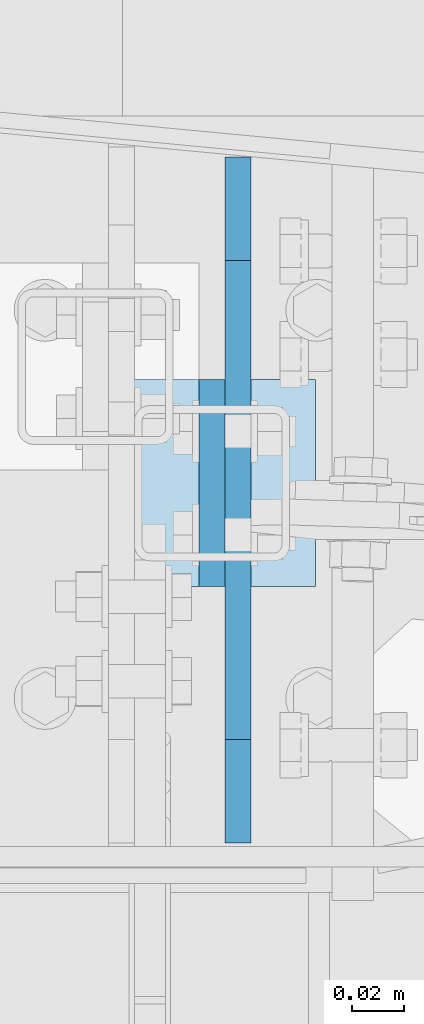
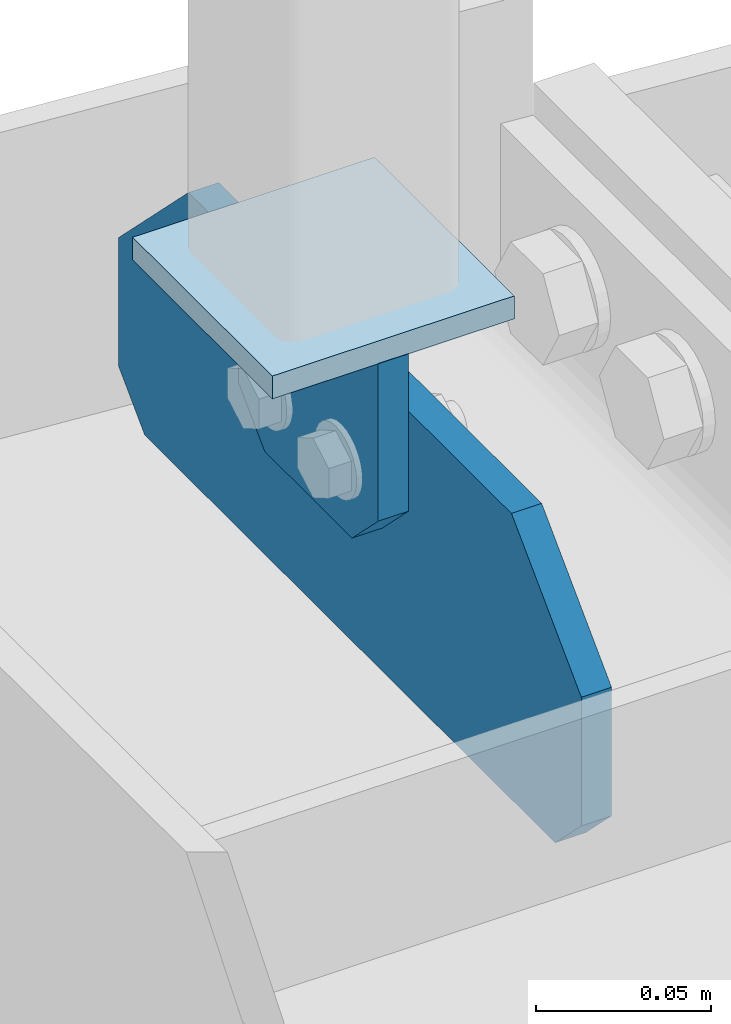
# One storey, part 144 of 271: 3 plates, 2 elements without a shape of their own.
"""IFC2X3 building model written with IfcOpenShell, lengths in millimetres."""

from ifc_helpers import new_model, si_unit, frame, origin_with_axes, place, context, subcontext, project, spatial, polyline, outline, extrude, material, type_object, element, aggregate, save


model = new_model("IFC2X3")

# Units and contexts
model_context = context("Model", 3, precision=1e-05, world=origin_with_axes())
body_context = subcontext(model_context, "Body", "Model", "MODEL_VIEW")
ifc_project = project(units=[si_unit("LENGTHUNIT", "METRE", prefix="MILLI"), si_unit("AREAUNIT", "SQUARE_METRE"), si_unit("VOLUMEUNIT", "CUBIC_METRE"), si_unit("MASSUNIT", "GRAM", prefix="KILO"), si_unit("TIMEUNIT", "SECOND"), si_unit("PLANEANGLEUNIT", "RADIAN"), si_unit("SOLIDANGLEUNIT", "STERADIAN"), si_unit("THERMODYNAMICTEMPERATUREUNIT", "DEGREE_CELSIUS"), si_unit("LUMINOUSINTENSITYUNIT", "LUMEN")], contexts=[model_context])

# Site, building, storey
site_placement = place(None, origin_with_axes())
site = spatial("IfcSite", under=ifc_project, at=site_placement, Name="Undefined", CompositionType="ELEMENT")
building_placement = place(site_placement, origin_with_axes())
building = spatial("IfcBuilding", under=site, at=building_placement, Name="Undefined", CompositionType="ELEMENT")
storey_placement = place(building_placement, origin_with_axes())
storey = spatial("IfcBuildingStorey", under=building, at=storey_placement, Name="Undefined", CompositionType="ELEMENT", Elevation=0.0)

# Assembly, plate
assembly_1_placement = place(storey_placement, origin_with_axes())
assembly_1 = element("IfcElementAssembly", 1, at=assembly_1_placement, inside=storey, AssemblyPlace="NOTDEFINED", PredefinedType="RIGID_FRAME")
ifc_material = material(Name="STEEL/S355JR")
plate_type_1 = type_object("IfcPlateType", Name="BL10*70", PredefinedType="NOTDEFINED")
plate_1_placement = place(assembly_1_placement, frame((122.999999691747, 4332.19355050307, 5752.64999985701), z_axis=(-1.0, 0.0, 1.38777878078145e-17), x_axis=(0.0, -0.707106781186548, -0.707106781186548)))
plate_1 = element("IfcPlate", 2, at=plate_1_placement, type_object=plate_type_1, material=ifc_material, Name="BLACHA", ObjectType="BL10*70", context=body_context, shape_type="SweptSolid", body=[
    extrude(outline(polyline([(0.0, 0.0), (21.2132034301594, 1.09139364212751e-11), (56.5685424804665, 35.3553390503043), (56.568542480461, 56.5685424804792), (17.6776695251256, 95.4594192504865), (-38.890872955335, 38.8908729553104), (0.0, 0.0)])), frame((0.0, 0.0, -5.0), z_axis=(0.0, 0.0, 1.0), x_axis=(1.0, 0.0, 0.0)), (0.0, 0.0, 1.0), 10.0),
])

assembly_2_placement = place(storey_placement, origin_with_axes())
assembly_2 = element("IfcElementAssembly", 3, at=assembly_2_placement, inside=storey, AssemblyPlace="NOTDEFINED", PredefinedType="RIGID_FRAME")
plate_type_2 = type_object("IfcPlateType", Name="BL10*100", PredefinedType="NOTDEFINED")
plate_2_placement = place(assembly_2_placement, frame((132.999999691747, 4418.19355050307, 5687.64999985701), z_axis=(-1.0, 0.0, 1.38777878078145e-17), x_axis=(0.0, -1.0, 0.0)))
plate_2 = element("IfcPlate", 4, at=plate_2_placement, type_object=plate_type_2, material=ifc_material, Name="BLACHA", ObjectType="BL10*100", context=body_context, shape_type="SweptSolid", body=[
    extrude(outline(polyline([(0.0, 15.0), (15.0, -1.59872115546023e-14), (250.0, -1.4210854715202e-14), (265.0, 15.0), (265.0, 60.0000000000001), (225.0, 100.0), (40.0, 100.0), (0.0, 60.0), (0.0, 15.0)])), frame((0.0, 0.0, -5.0), z_axis=(0.0, 0.0, 1.0), x_axis=(1.0, 0.0, 0.0)), (0.0, 0.0, 1.0), 10.0),
])
aggregate(assembly_2, [plate_2])

# Plate
plate_type_3 = type_object("IfcPlateType", Name="BL8*80", PredefinedType="NOTDEFINED")
plate_3_placement = place(assembly_1_placement, frame((162.999999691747, 4332.19355050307, 5811.64999985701), z_axis=(0.0, 0.0, -1.0), x_axis=(0.0, -1.0, 0.0)))
plate_3 = element("IfcPlate", 5, at=plate_3_placement, type_object=plate_type_3, material=ifc_material, Name="BLACHA", ObjectType="BL8*80", context=body_context, shape_type="SweptSolid", body=[
    extrude(outline(polyline([(0.0, 0.0), (80.0, 0.0), (80.0, 80.0), (0.0, 80.0), (0.0, 0.0)])), frame((0.0, 0.0, -4.0), z_axis=(0.0, 0.0, 1.0), x_axis=(1.0, 0.0, 0.0)), (0.0, 0.0, 1.0), 8.0),
])

aggregate(assembly_1, [plate_3, plate_1])

save(model, "model.ifc")
